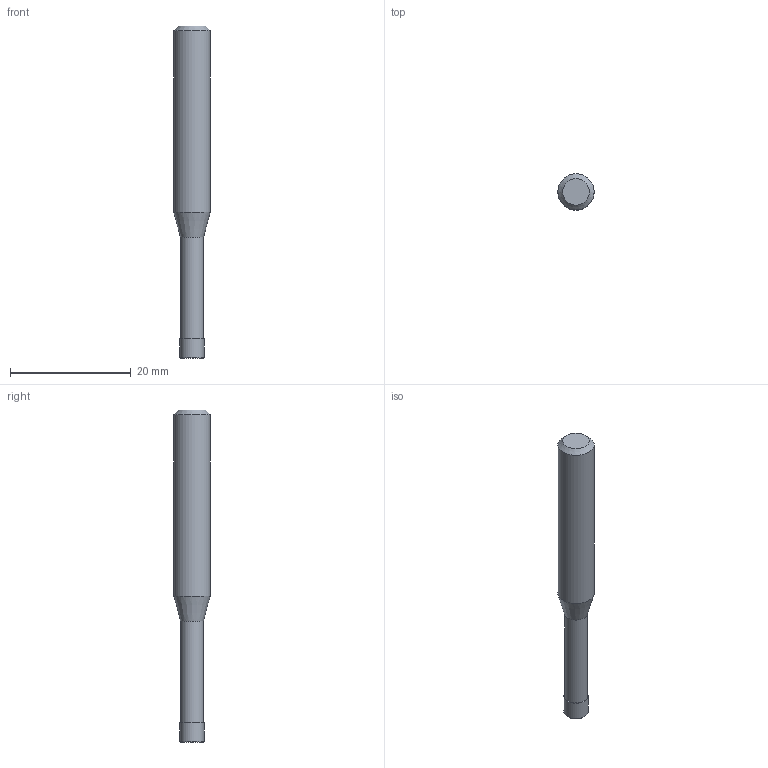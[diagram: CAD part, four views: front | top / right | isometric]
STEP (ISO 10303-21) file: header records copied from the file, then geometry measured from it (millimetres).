
FILE_DESCRIPTION((''),'2;1');
FILE_NAME('C:\Users\nsx150\AppData\Local\Temp\Mastercam 2021\8MCJJJGUOI\TEMP.step','2022-10-12T10:46:02',(''),(''),'STEP Write','Mastercam 2021 ... CNC Software, Inc.','');
FILE_SCHEMA(('AUTOMOTIVE_DESIGN'));
Length unit declared in the file: millimetre
Products named in the file (1): None
Bounding box: 6 x 6 x 55 mm (x, y, z)
Volume: 1177.5 mm3; surface area: 943.1 mm2
Topology: 2 solids, 2 shells, 10 faces, 14 edges, 8 vertices
Faces by surface type: plane 4, cylinder 3, cone 2, torus 1
Full cylindrical faces by diameter (mm): 3.8 x1, 4 x1, 6 x1
Entity records: 232 total; most frequent: DIRECTION 40, CARTESIAN_POINT 28, AXIS2_PLACEMENT_3D 20, ORIENTED_EDGE 16, EDGE_LOOP 16, STYLED_ITEM 13, ADVANCED_FACE 10, FACE_BOUND 10
